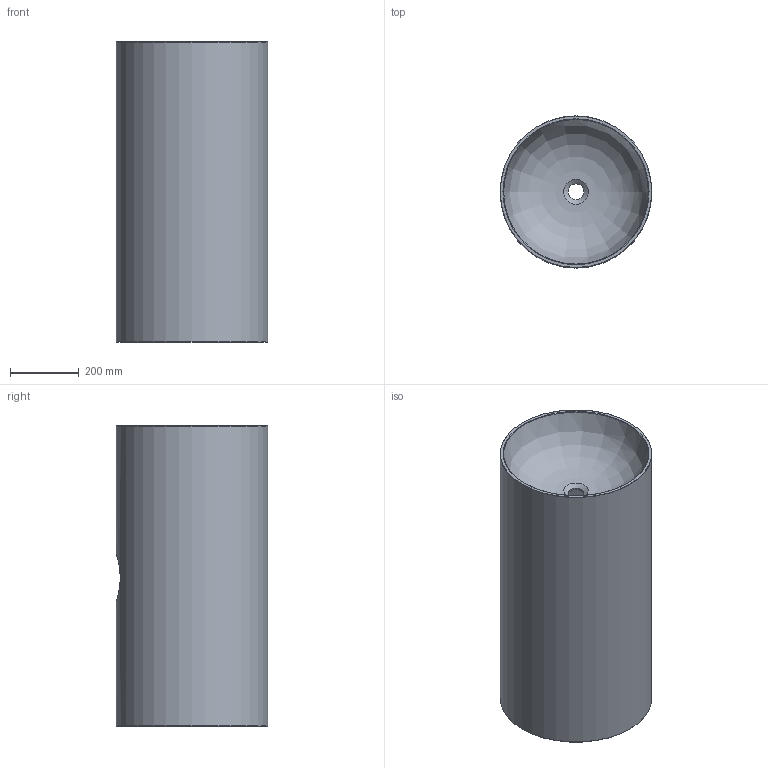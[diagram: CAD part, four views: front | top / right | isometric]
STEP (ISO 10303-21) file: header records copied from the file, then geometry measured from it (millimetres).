
FILE_DESCRIPTION(/* description */ (''),/* implementation_level */ '2;1');
FILE_NAME(/* name */ 'm07599A.stp',/* time_stamp */ '2015-10-27T10:50:56+01:00',/* author */ (''),/* organization */ (''),/* preprocessor_version */ 'ST-DEVELOPER v15',/* originating_system */ 'SIEMENS PLM Software NX 8.5',/* authorisation */ '');
FILE_SCHEMA (('AUTOMOTIVE_DESIGN { 1 0 10303 214 3 1 1 1 }'));
Length unit declared in the file: millimetre
Products named in the file (1): Robe14AC0D51vc1v
Bounding box: 440 x 440 x 870 mm (x, y, z)
Volume: 21653509.7 mm3; surface area: 2633789.8 mm2
Topology: 1 solids, 1 shells, 59 faces, 133 edges, 77 vertices
Faces by surface type: bspline 17, plane 11, cylinder 11, torus 10, cone 5, sphere 4, revolution 1
Full cylindrical faces by diameter (mm): 12 x2, 20 x2, 46 x1, 140 x1, 440 x1
Entity records: 2833 total; most frequent: CARTESIAN_POINT 1719, DIRECTION 215, ORIENTED_EDGE 206, EDGE_CURVE 103, AXIS2_PLACEMENT_3D 101, EDGE_LOOP 84, VERTEX_POINT 67, ADVANCED_FACE 59
